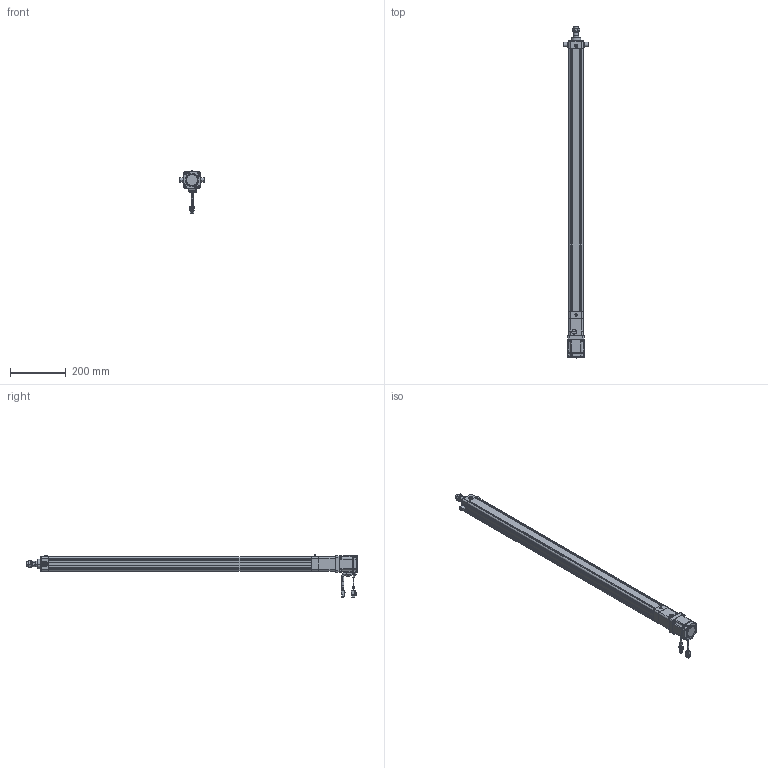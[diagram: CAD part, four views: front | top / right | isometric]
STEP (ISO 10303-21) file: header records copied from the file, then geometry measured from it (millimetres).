
FILE_DESCRIPTION((''),'2;1');
FILE_NAME('HE40-D-100_ASM','2020-05-25T',('ASUS20200'),(''),'CREO PARAMETRIC BY PTC INC, 2014190','CREO PARAMETRIC BY PTC INC, 2014190','');
FILE_SCHEMA(('CONFIG_CONTROL_DESIGN'));
Length unit declared in the file: millimetre
Products named in the file (26): HE40-D-P-001-X1; HE40-D-P-002-X1; HE40-D-P-003-X1; 6200ZZ; HE40-D-009-X1; HE40-D-010-X1; _MHMF022L1A2; _CABLE_MOTOR_BOTTOM_03; _CABLE_MOTOR_TOP_03; _MOTOR_CONNECTOR_2; _CABLE_BRAKE_BOTTOM_03; _CABLE_BRAKE_TOP_03; _MHMF_CONNECTOR_9_PIN_A6; MHMF022L1A2M2_1_ASM; MHMF022L1A2M2_ASM; SLM-01; YZ-M6X1; JDB202820; SKT-13; JX5X5X20; HE40-TC; HE40-D-P-005-X1; HE40-D-P-004-X1; HE40-D-P-008-X1; LGLM-M6-22; HE40-D-100_ASM
Assembly tree (29 placements, depth 4):
  HE40-D-100_ASM
    HE40-D-P-001-X1
    HE40-D-P-002-X1
    HE40-D-P-003-X1
    6200ZZ
    HE40-D-009-X1
    HE40-D-010-X1
    MHMF022L1A2M2_ASM
      MHMF022L1A2M2_1_ASM
        _MHMF022L1A2
        _CABLE_MOTOR_BOTTOM_03
        _CABLE_MOTOR_TOP_03
        _MOTOR_CONNECTOR_2
        _CABLE_BRAKE_BOTTOM_03
        _CABLE_BRAKE_TOP_03
        _MHMF_CONNECTOR_9_PIN_A6
    SLM-01
    YZ-M6X1
    JDB202820
    SKT-13
    JX5X5X20
    HE40-TC  x2
    HE40-D-P-005-X1
    HE40-D-P-004-X1
    HE40-D-P-008-X1
    LGLM-M6-22  x4
Bounding box: 91 x 1188.5 x 152.7 mm (x, y, z)
Volume: 1471214.8 mm3; surface area: 595237.7 mm2
Topology: 27 solids, 54 shells, 2355 faces, 5743 edges, 3559 vertices
Faces by surface type: plane 970, cylinder 713, cone 546, torus 86, sphere 36, bspline 4
Entity records: 67001 total; most frequent: CARTESIAN_POINT 12981, DIRECTION 11796, ORIENTED_EDGE 10686, EDGE_CURVE 5397, AXIS2_PLACEMENT_3D 4397, VERTEX_POINT 3377, VECTOR 3002, LINE 3002
